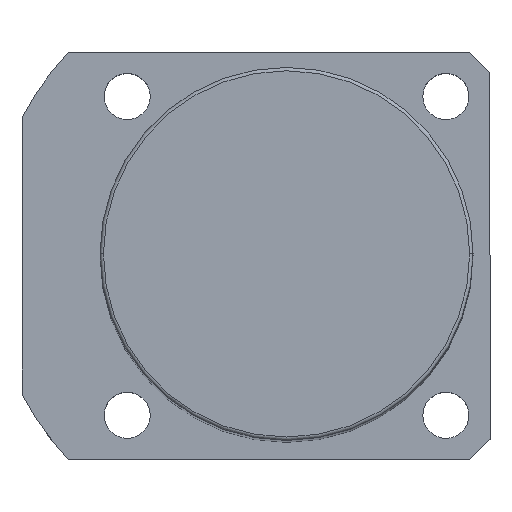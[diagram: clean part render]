
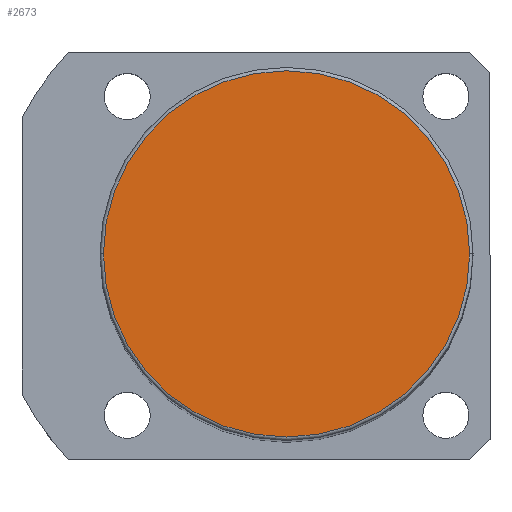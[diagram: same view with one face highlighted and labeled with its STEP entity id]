
A CAD part, top view. The second image highlights one B-rep face of the part: STEP entity #2673.
In plain terms, the highlighted planar face has unit normal (0, 0, 1).
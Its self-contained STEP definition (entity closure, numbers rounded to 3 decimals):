
#37 = DIRECTION ( 'NONE',  ( 1., 0., 0. ) ) ;
#217 = EDGE_CURVE ( 'NONE', #780, #4175, #652, .T. ) ;
#652 = CIRCLE ( 'NONE', #1619, 27. ) ;
#748 = CIRCLE ( 'NONE', #1876, 27. ) ;
#780 = VERTEX_POINT ( 'NONE', #2493 ) ;
#809 = ORIENTED_EDGE ( 'NONE', *, *, #1931, .T. ) ;
#998 = FACE_OUTER_BOUND ( 'NONE', #3650, .T. ) ;
#1361 = CARTESIAN_POINT ( 'NONE',  ( 0., 0., 176. ) ) ;
#1619 = AXIS2_PLACEMENT_3D ( 'NONE', #2662, #4219, #3043 ) ;
#1876 = AXIS2_PLACEMENT_3D ( 'NONE', #4762, #2404, #37 ) ;
#1931 = EDGE_CURVE ( 'NONE', #4175, #780, #748, .T. ) ;
#1947 = CARTESIAN_POINT ( 'NONE',  ( 27., 0., 176. ) ) ;
#1961 = AXIS2_PLACEMENT_3D ( 'NONE', #1361, #4906, #2550 ) ;
#2020 = ORIENTED_EDGE ( 'NONE', *, *, #217, .T. ) ;
#2404 = DIRECTION ( 'NONE',  ( 0., 0., 1. ) ) ;
#2493 = CARTESIAN_POINT ( 'NONE',  ( -27., 0., 176. ) ) ;
#2550 = DIRECTION ( 'NONE',  ( 1., 0., 0. ) ) ;
#2662 = CARTESIAN_POINT ( 'NONE',  ( 0., 0., 176. ) ) ;
#2673 = ADVANCED_FACE ( 'NONE', ( #998 ), #3324, .T. ) ;
#3043 = DIRECTION ( 'NONE',  ( 1., 0., 0. ) ) ;
#3324 = PLANE ( 'NONE',  #1961 ) ;
#3650 = EDGE_LOOP ( 'NONE', ( #809, #2020 ) ) ;
#4175 = VERTEX_POINT ( 'NONE', #1947 ) ;
#4219 = DIRECTION ( 'NONE',  ( 0., 0., 1. ) ) ;
#4762 = CARTESIAN_POINT ( 'NONE',  ( 0., 0., 176. ) ) ;
#4906 = DIRECTION ( 'NONE',  ( 0., 0., 1. ) ) ;
